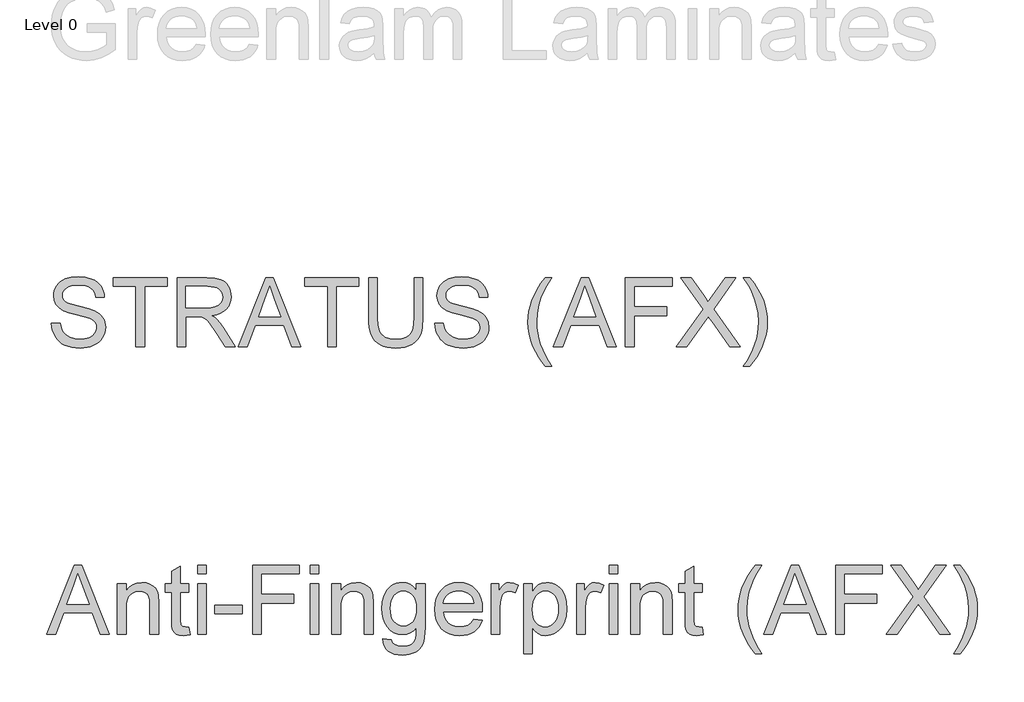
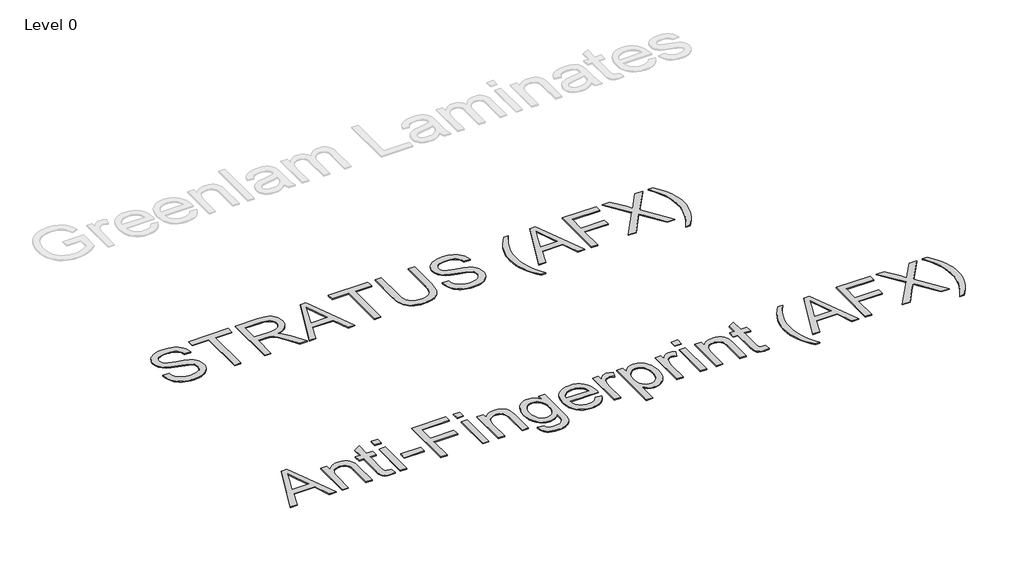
# One storey, part 2 of 3: 2 proxies.
"""IFC4 building model written with IfcOpenShell, lengths in millimetres."""

from ifc_helpers import new_model, si_unit, origin, origin_with_axes, place, context, project, spatial, polyline, outline, extrude, element, save

model = new_model("IFC4")

# Units and contexts
model_context = context("Model", 3, world=origin())
ifc_project = project(units=[si_unit("LENGTHUNIT", "METRE", prefix="MILLI")], contexts=[model_context])

# Site, building, storey
site = spatial("IfcSite", under=ifc_project)
building = spatial("IfcBuilding", under=site)
storey = spatial("IfcBuildingStorey", under=building, Name="Level 0", Elevation=0.0)

# Proxies
placement = place(None, origin())
element("IfcBuildingElementProxy", 1, Name="600mm Arial", ObjectType="600mm Arial", at=placement, inside=storey, context=model_context, shape_type="SweptSolid", body=[
    extrude(outline(polyline([(-10905.7165225, 467.3190924), (-10830.3742899, 467.3190924), (-10821.729063, 425.5093036), (-10806.0940782, 391.9032833), (-10781.7035019, 365.2318387), (-10746.7915006, 344.2257768), (-10704.1171891, 330.5957488), (-10656.4396825, 326.0524062), (-10614.4643469, 329.4921029), (-10577.7129356, 339.8111928), (-10547.9328881, 356.1451534), (-10526.8716438, 377.6294619), (-10514.3452619, 402.2959497), (-10510.1698013, 428.1764481), (-10513.2967982, 453.3947588), (-10522.6777891, 475.1917671), (-10541.7340764, 493.7882019), (-10573.8869628, 509.4047926), (-10683.5893738, 538.1731646), (-10755.6022743, 557.2110579), (-10801.6794942, 575.3292461), (-10839.1850636, 600.6763156), (-10865.7645378, 631.3944622), (-10881.6018577, 666.8214983), (-10886.8809643, 706.2952364), (-10885.248488, 728.7314396), (-10880.3510589, 750.4226817), (-10872.1886771, 771.3689628), (-10860.7613427, 791.5702829), (-10846.1978142, 810.203506), (-10828.6268504, 826.445496), (-10808.0484513, 840.2962532), (-10784.4626169, 851.7557773), (-10731.4508214, 867.1516388), (-10672.7736431, 872.2835926), (-10609.2036344, 866.9125155), (-10553.5798767, 850.7992841), (-10529.2444827, 838.797134), (-10507.8889329, 824.2749923), (-10489.5132272, 807.2328588), (-10474.1173657, 787.6707338), (-10461.82091, 766.1588341), (-10452.7434218, 743.2673769), (-10446.884901, 718.9963623), (-10444.2453477, 693.3457902), (-10519.5875803, 693.3457902), (-10524.6275637, 717.3868786), (-10533.4199434, 738.30097), (-10545.9647194, 756.0880645), (-10562.2618918, 770.748162), (-10582.6149632, 782.2076861), (-10607.3274362, 790.3930605), (-10636.3993109, 795.3042852), (-10669.8305872, 796.94136), (-10704.3287213, 795.3226793), (-10733.8052661, 790.4666369), (-10758.2602218, 782.373233), (-10777.6935881, 771.0424676), (-10792.5008385, 757.4216367), (-10803.0774458, 742.4580365), (-10809.4234102, 726.1516671), (-10811.5387317, 708.5025284), (-10810.0396126, 693.318199), (-10805.5422552, 679.5502154), (-10798.0466595, 667.1985774), (-10787.5528256, 656.2632851), (-10771.034924, 645.9074069), (-10745.025667, 635.4411642), (-10664.5330864, 614.1775848), (-10581.4653319, 593.9808633), (-10531.2126514, 576.3593157), (-10488.2624284, 549.0256835), (-10471.6571549, 532.9584373), (-10458.2984399, 515.2909045), (-10448.0299337, 496.1150555), (-10440.6952865, 475.5228608), (-10434.8275686, 430.0894344), (-10436.5152273, 406.5219941), (-10441.5782033, 383.6443326), (-10450.0164965, 361.4564497), (-10461.8301071, 339.9583456), (-10476.8121013, 319.9823533), (-10494.7555457, 302.3608057), (-10515.66044, 287.0937029), (-10539.5267845, 274.1810449), (-10565.6602017, 263.9125387), (-10593.3663145, 256.5778914), (-10653.4966266, 250.7101736), (-10692.0368641, 252.2920662), (-10727.3121489, 257.0377439), (-10759.322481, 264.9472068), (-10788.0678604, 276.0204549), (-10813.7230311, 290.2758822), (-10836.4627369, 307.7318828), (-10856.2869779, 328.3884569), (-10873.1957541, 352.2456043), (-10886.816585, 378.5307728), (-10896.77699, 406.4714104), (-10903.0769692, 436.0675169), (-10905.7165225, 467.3190924)])), origin_with_axes(), (0.0, 0.0, 1.0), 10.0),
    extrude(outline(polyline([(-10171.1297545, 260.1279527), (-10171.1297545, 787.523581), (-10368.9031151, 787.523581), (-10368.9031151, 862.8658136), (-9898.0141613, 862.8658136), (-9898.0141613, 787.523581), (-10095.7875219, 787.523581), (-10095.7875219, 260.1279527), (-10171.1297545, 260.1279527)])), origin_with_axes(), (0.0, 0.0, 1.0), 10.0),
    extrude(outline(polyline([(-9813.2541496, 260.1279527), (-9813.2541496, 862.8658136), (-9553.529461, 862.8658136), (-9483.7238524, 858.8007175), (-9432.937743, 846.6054294), (-9413.3388297, 836.9117388), (-9395.8184497, 824.0910513), (-9380.3766029, 808.1433668), (-9367.0132894, 789.0686853), (-9356.2297485, 767.892478), (-9348.5272192, 745.6402158), (-9343.9057016, 722.3118988), (-9342.3651958, 697.9075269), (-9344.9173771, 666.950257), (-9352.5739211, 638.5313729), (-9365.3348278, 612.6508745), (-9383.2000972, 589.308762), (-9406.3996556, 569.2499962), (-9435.1634291, 553.2195382), (-9469.4914177, 541.2173881), (-9509.3836216, 533.2435459), (-9484.5515869, 517.0199499), (-9466.5621573, 501.0170831), (-9435.6968579, 464.4128246), (-9405.4937461, 423.4675585), (-9304.9883851, 260.1279527), (-9392.5442999, 260.1279527), (-9470.9767413, 385.0606782), (-9527.6305685, 467.7605507), (-9548.6918128, 491.8752155), (-9567.4354004, 506.8296186), (-9603.2671067, 521.1770164), (-9646.9714878, 523.8257668), (-9737.911917, 523.8257668), (-9737.911917, 260.1279527), (-9813.2541496, 260.1279527)]), holes=[polyline([(-9737.911917, 599.1679994), (-9569.2748104, 599.1679994), (-9520.8431457, 601.8351439), (-9483.2639999, 609.8365773), (-9454.9738745, 623.7057285), (-9434.409271, 643.9760264), (-9421.882889, 668.4953614), (-9417.7074284, 695.1116238), (-9419.6985897, 714.3794433), (-9425.6720736, 731.8630351), (-9435.6278801, 747.5623992), (-9449.5660092, 761.4775357), (-9467.8083576, 772.8726805), (-9490.6768221, 781.0120696), (-9518.1714027, 785.8957031), (-9550.2920994, 787.523581), (-9737.911917, 787.523581), (-9737.911917, 599.1679994)])]), origin_with_axes(), (0.0, 0.0, 1.0), 10.0),
    extrude(outline(polyline([(-9280.7081734, 260.1279527), (-9040.1133485, 862.8658136), (-8975.9547286, 862.8658136), (-8735.3599037, 260.1279527), (-8814.9695675, 260.1279527), (-8883.9842298, 448.4835342), (-9132.2310001, 448.4835342), (-9201.0985096, 260.1279527), (-9280.7081734, 260.1279527)]), holes=[polyline([(-9104.5662741, 523.8257668), (-8911.501803, 523.8257668), (-8965.8011855, 672.0086345), (-9008.0340386, 787.523581), (-9045.5580021, 684.9580807), (-9104.5662741, 523.8257668)])]), origin_with_axes(), (0.0, 0.0, 1.0), 10.0),
    extrude(outline(polyline([(-8504.182858, 260.1279527), (-8504.182858, 787.523581), (-8701.9562186, 787.523581), (-8701.9562186, 862.8658136), (-8231.0672647, 862.8658136), (-8231.0672647, 787.523581), (-8428.8406253, 787.523581), (-8428.8406253, 260.1279527), (-8504.182858, 260.1279527)])), origin_with_axes(), (0.0, 0.0, 1.0), 10.0),
    extrude(outline(polyline([(-7750.7605318, 862.8658136), (-7675.4182992, 862.8658136), (-7675.4182992, 515.1437517), (-7680.531859, 433.7130721), (-7686.9238086, 400.0196799), (-7695.8725382, 371.007586), (-7708.1505997, 345.5777431), (-7724.5305456, 322.6311037), (-7745.0123757, 302.1676677), (-7769.59609, 284.1874352), (-7798.3092797, 269.5411332), (-7831.179536, 259.079489), (-7868.2068588, 252.8025024), (-7909.3912482, 250.7101736), (-7949.5593635, 252.5311895), (-7985.8923091, 257.9942371), (-8018.3900848, 267.0993165), (-8047.0526907, 279.8464276), (-8071.8847254, 296.047031), (-8092.8907873, 315.512587), (-8110.0708765, 338.2430958), (-8123.4249929, 364.2385573), (-8133.4359817, 394.3910853), (-8140.586688, 429.5927937), (-8144.8771118, 469.8436825), (-8146.307253, 515.1437517), (-8146.307253, 862.8658136), (-8070.9650204, 862.8658136), (-8070.9650204, 517.7925021), (-8067.2494123, 450.0838209), (-8056.1025878, 402.9397432), (-8047.3377993, 385.5619175), (-8035.9058663, 370.2902161), (-8021.8067888, 357.1246392), (-8005.0405669, 346.0651867), (-7964.7942766, 331.0556013), (-7916.4545825, 326.0524062), (-7874.9299023, 328.5264126), (-7839.8247629, 335.9484319), (-7811.1391643, 348.318464), (-7788.8731065, 365.6365089), (-7772.1988551, 389.990297), (-7760.2886755, 423.4675585), (-7753.1425678, 466.0682936), (-7750.7605318, 517.7925021), (-7750.7605318, 862.8658136)])), origin_with_axes(), (0.0, 0.0, 1.0), 10.0),
    extrude(outline(polyline([(-7571.8227294, 467.3190924), (-7496.4804968, 467.3190924), (-7487.8352699, 425.5093036), (-7472.2002851, 391.9032833), (-7447.8097088, 365.2318387), (-7412.8977075, 344.2257768), (-7370.223396, 330.5957488), (-7322.5458894, 326.0524062), (-7280.5705538, 329.4921029), (-7243.8191425, 339.8111928), (-7214.039095, 356.1451534), (-7192.9778507, 377.6294619), (-7180.4514688, 402.2959497), (-7176.2760082, 428.1764481), (-7179.4030051, 453.3947588), (-7188.783996, 475.1917671), (-7207.8402834, 493.7882019), (-7239.9931697, 509.4047926), (-7349.6955807, 538.1731646), (-7421.7084812, 557.2110579), (-7467.7857011, 575.3292461), (-7505.2912706, 600.6763156), (-7531.8707447, 631.3944622), (-7547.7080646, 666.8214983), (-7552.9871712, 706.2952364), (-7551.3546949, 728.7314396), (-7546.4572658, 750.4226817), (-7538.294884, 771.3689628), (-7526.8675496, 791.5702829), (-7512.3040211, 810.203506), (-7494.7330573, 826.445496), (-7474.1546582, 840.2962532), (-7450.5688238, 851.7557773), (-7397.5570283, 867.1516388), (-7338.87985, 872.2835926), (-7275.3098413, 866.9125155), (-7219.6860836, 850.7992841), (-7195.3506896, 838.797134), (-7173.9951398, 824.2749923), (-7155.6194341, 807.2328588), (-7140.2235726, 787.6707338), (-7127.927117, 766.1588341), (-7118.8496287, 743.2673769), (-7112.9911079, 718.9963623), (-7110.3515546, 693.3457902), (-7185.6937872, 693.3457902), (-7190.7337706, 717.3868786), (-7199.5261503, 738.30097), (-7212.0709263, 756.0880645), (-7228.3680987, 770.748162), (-7248.7211701, 782.2076861), (-7273.4336431, 790.3930605), (-7302.5055178, 795.3042852), (-7335.9367941, 796.94136), (-7370.4349282, 795.3226793), (-7399.911473, 790.4666369), (-7424.3664287, 782.373233), (-7443.7997951, 771.0424676), (-7458.6070454, 757.4216367), (-7469.1836527, 742.4580365), (-7475.5296171, 726.1516671), (-7477.6449386, 708.5025284), (-7476.1458195, 693.318199), (-7471.6484621, 679.5502154), (-7464.1528664, 667.1985774), (-7453.6590325, 656.2632851), (-7437.1411309, 645.9074069), (-7411.1318739, 635.4411642), (-7330.6392933, 614.1775848), (-7247.5715388, 593.9808633), (-7197.3188583, 576.3593157), (-7154.3686354, 549.0256835), (-7137.7633618, 532.9584373), (-7124.4046468, 515.2909045), (-7114.1361407, 496.1150555), (-7106.8014934, 475.5228608), (-7100.9337756, 430.0894344), (-7102.6214342, 406.5219941), (-7107.6844102, 383.6443326), (-7116.1227034, 361.4564497), (-7127.936314, 339.9583456), (-7142.9183083, 319.9823533), (-7160.8617526, 302.3608057), (-7181.7666469, 287.0937029), (-7205.6329914, 274.1810449), (-7231.7664086, 263.9125387), (-7259.4725214, 256.5778914), (-7319.6028335, 250.7101736), (-7358.143071, 252.2920662), (-7393.4183558, 257.0377439), (-7425.4286879, 264.9472068), (-7454.1740673, 276.0204549), (-7479.829238, 290.2758822), (-7502.5689438, 307.7318828), (-7522.3931848, 328.3884569), (-7539.301961, 352.2456043), (-7552.9227919, 378.5307728), (-7562.8831969, 406.4714104), (-7569.1831761, 436.0675169), (-7571.8227294, 467.3190924)])), origin_with_axes(), (0.0, 0.0, 1.0), 10.0),
    extrude(outline(polyline([(-6611.2092636, 90.6079293), (-6641.6239075, 129.9621057), (-6669.5921362, 172.5352496), (-6695.1139496, 218.327361), (-6718.1893478, 267.3384398), (-6737.3100145, 318.4188548), (-6750.9676335, 370.4189748), (-6759.162205, 423.3387998), (-6761.8937288, 477.1783298), (-6759.8519837, 524.4971515), (-6753.7267485, 570.8042976), (-6743.5180231, 616.0997683), (-6729.2258076, 660.3835634), (-6707.5023758, 711.1696729), (-6680.5918079, 761.8454177), (-6648.4941038, 812.4107979), (-6611.2092636, 862.8658136), (-6554.7025891, 862.8658136), (-6599.0323695, 791.2391891), (-6625.1887794, 743.5248943), (-6649.2482619, 686.8710671), (-6667.5687852, 627.862795), (-6681.8058184, 552.4837742), (-6686.5514962, 476.7368714), (-6684.491357, 428.438564), (-6678.3109395, 380.1494536), (-6668.0102436, 331.8695403), (-6653.5892694, 283.598824), (-6635.0480169, 235.3373047), (-6612.386486, 187.0849825), (-6585.6046767, 138.8418574), (-6554.7025891, 90.6079293), (-6611.2092636, 90.6079293)])), origin_with_axes(), (0.0, 0.0, 1.0), 10.0),
    extrude(outline(polyline([(-6540.1344621, 260.1279527), (-6299.5396373, 862.8658136), (-6235.3810173, 862.8658136), (-5994.7861925, 260.1279527), (-6074.3958562, 260.1279527), (-6143.4105185, 448.4835342), (-6391.6572889, 448.4835342), (-6460.5247984, 260.1279527), (-6540.1344621, 260.1279527)]), holes=[polyline([(-6363.9925628, 523.8257668), (-6170.9280917, 523.8257668), (-6225.2274742, 672.0086345), (-6267.4603273, 787.523581), (-6304.9842908, 684.9580807), (-6363.9925628, 523.8257668)])]), origin_with_axes(), (0.0, 0.0, 1.0), 10.0),
    extrude(outline(polyline([(-5914.2936119, 260.1279527), (-5914.2936119, 862.8658136), (-5509.3291116, 862.8658136), (-5509.3291116, 787.523581), (-5838.9513793, 787.523581), (-5838.9513793, 608.5857785), (-5556.418007, 608.5857785), (-5556.418007, 533.2435459), (-5838.9513793, 533.2435459), (-5838.9513793, 260.1279527), (-5914.2936119, 260.1279527)])), origin_with_axes(), (0.0, 0.0, 1.0), 10.0),
    extrude(outline(polyline([(-5471.6579953, 260.1279527), (-5239.3037272, 588.572998), (-5433.986879, 862.8658136), (-5343.635061, 862.8658136), (-5234.0062264, 708.5025284), (-5207.8498166, 669.3966723), (-5197.0708741, 648.317034), (-5153.8079515, 709.532598), (-5045.3563393, 862.8658136), (-4953.6801461, 862.8658136), (-5148.363298, 587.6900812), (-4916.0090298, 260.1279527), (-5006.3608478, 260.1279527), (-5161.1655914, 478.502705), (-5193.3920542, 523.8257668), (-5228.8558785, 474.0881211), (-5379.9818021, 260.1279527), (-5471.6579953, 260.1279527)])), origin_with_axes(), (0.0, 0.0, 1.0), 10.0),
    extrude(outline(polyline([(-4831.2490181, 90.6079293), (-4887.7556926, 90.6079293), (-4856.853605, 138.8418574), (-4830.0717957, 187.0849825), (-4807.4102648, 235.3373047), (-4788.8690123, 283.598824), (-4774.4480381, 331.8695403), (-4764.1473422, 380.1494536), (-4757.9669247, 428.438564), (-4755.9067855, 476.7368714), (-4760.6524632, 551.9319512), (-4774.8894965, 626.5384199), (-4792.878926, 685.6570565), (-4816.8280439, 742.3476719), (-4843.0948184, 790.5770015), (-4887.7556926, 862.8658136), (-4831.2490181, 862.8658136), (-4793.9641779, 812.4107979), (-4761.8664738, 761.8454177), (-4734.9559059, 711.1696729), (-4713.2324741, 660.3835634), (-4698.9402585, 616.0997683), (-4688.7315332, 570.8042976), (-4682.606298, 524.4971515), (-4680.5645529, 477.1783298), (-4683.3098723, 423.3387998), (-4691.5458304, 370.4189748), (-4705.2724274, 318.4188548), (-4724.4896631, 267.3384398), (-4747.6340391, 218.327361), (-4773.142057, 172.5352496), (-4801.0137166, 129.9621057), (-4831.2490181, 90.6079293)])), origin_with_axes(), (0.0, 0.0, 1.0), 10.0),
])
element("IfcBuildingElementProxy", 2, Name="600mm Arial", ObjectType="600mm Arial", at=placement, inside=storey, context=model_context, shape_type="SweptSolid", body=[
    extrude(outline(polyline([(-10947.6550699, -2239.8720473), (-10707.0602451, -1637.1341864), (-10642.9016251, -1637.1341864), (-10402.3068003, -2239.8720473), (-10481.916464, -2239.8720473), (-10550.9311263, -2051.5164658), (-10799.1778967, -2051.5164658), (-10868.0454062, -2239.8720473), (-10947.6550699, -2239.8720473)]), holes=[polyline([(-10771.5131706, -1976.1742332), (-10578.4486996, -1976.1742332), (-10632.748082, -1827.9913655), (-10674.9809351, -1712.476419), (-10712.5048986, -1815.0419193), (-10771.5131706, -1976.1742332)])]), origin_with_axes(), (0.0, 0.0, 1.0), 10.0),
    extrude(outline(polyline([(-10331.2319988, -2239.8720473), (-10331.2319988, -1797.2364307), (-10255.8897662, -1797.2364307), (-10255.8897662, -1859.0406059), (-10229.7149622, -1827.8810009), (-10198.2794457, -1805.6241402), (-10161.5832167, -1792.2700238), (-10119.6262752, -1787.8186517), (-10082.4885878, -1791.4055011), (-10048.4778973, -1802.1660495), (-10020.1141955, -1818.7575275), (-9999.9174739, -1839.8371658), (-9986.2138696, -1865.3497821), (-9977.3295194, -1895.2401942), (-9973.3563939, -1968.0808293), (-9973.3563939, -2239.8720473), (-10048.6986265, -2239.8720473), (-10048.6986265, -1978.2343724), (-10050.8691303, -1939.2756691), (-10057.3806416, -1911.5741548), (-10069.3919887, -1891.7269212), (-10088.062, -1876.3310597), (-10111.9927238, -1866.4534281), (-10139.7862085, -1863.1608843), (-10162.6638701, -1865.0094913), (-10183.9136538, -1870.5553124), (-10203.5355598, -1879.7983475), (-10221.5295878, -1892.7385967), (-10236.5621659, -1910.8475879), (-10247.2997216, -1935.5968491), (-10253.742255, -1966.9863804), (-10255.8897662, -2005.0161816), (-10255.8897662, -2239.8720473), (-10331.2319988, -2239.8720473)])), origin_with_axes(), (0.0, 0.0, 1.0), 10.0),
    extrude(outline(polyline([(-9709.6585798, -2177.0378026), (-9700.2408007, -2242.0793393), (-9756.6003223, -2249.2898264), (-9792.7631225, -2246.1628294), (-9819.7288727, -2236.7818386), (-9838.7851601, -2222.3240762), (-9851.2195715, -2203.9667646), (-9858.0621766, -2172.4392776), (-9860.343045, -2118.4709889), (-9860.343045, -1872.5786633), (-9916.8497194, -1872.5786633), (-9916.8497194, -1797.2364307), (-9860.343045, -1797.2364307), (-9860.343045, -1689.6677353), (-9785.0008124, -1645.3747431), (-9785.0008124, -1797.2364307), (-9709.6585798, -1797.2364307), (-9709.6585798, -1872.5786633), (-9785.0008124, -1872.5786633), (-9785.0008124, -2116.2636969), (-9781.0276868, -2155.1120356), (-9768.151817, -2168.8708223), (-9757.280904, -2172.6784009), (-9742.4736537, -2173.9475938), (-9709.6585798, -2177.0378026)])), origin_with_axes(), (0.0, 0.0, 1.0), 10.0),
    extrude(outline(polyline([(-9634.3163471, -1712.476419), (-9634.3163471, -1637.1341864), (-9558.9741145, -1637.1341864), (-9558.9741145, -1712.476419), (-9634.3163471, -1712.476419)])), origin_with_axes(), (0.0, 0.0, 1.0), 10.0),
    extrude(outline(polyline([(-9634.3163471, -2239.8720473), (-9634.3163471, -1797.2364307), (-9558.9741145, -1797.2364307), (-9558.9741145, -2239.8720473), (-9634.3163471, -2239.8720473)])), origin_with_axes(), (0.0, 0.0, 1.0), 10.0),
    extrude(outline(polyline([(-9483.6318819, -2060.9342449), (-9483.6318819, -1985.5920123), (-9248.187405, -1985.5920123), (-9248.187405, -2060.9342449), (-9483.6318819, -2060.9342449)])), origin_with_axes(), (0.0, 0.0, 1.0), 10.0),
    extrude(outline(polyline([(-9154.0096142, -2239.8720473), (-9154.0096142, -1637.1341864), (-8749.0451139, -1637.1341864), (-8749.0451139, -1712.476419), (-9078.6673816, -1712.476419), (-9078.6673816, -1891.4142215), (-8796.1340093, -1891.4142215), (-8796.1340093, -1966.7564541), (-9078.6673816, -1966.7564541), (-9078.6673816, -2239.8720473), (-9154.0096142, -2239.8720473)])), origin_with_axes(), (0.0, 0.0, 1.0), 10.0),
    extrude(outline(polyline([(-8654.8673232, -1712.476419), (-8654.8673232, -1637.1341864), (-8579.5250906, -1637.1341864), (-8579.5250906, -1712.476419), (-8654.8673232, -1712.476419)])), origin_with_axes(), (0.0, 0.0, 1.0), 10.0),
    extrude(outline(polyline([(-8654.8673232, -2239.8720473), (-8654.8673232, -1797.2364307), (-8579.5250906, -1797.2364307), (-8579.5250906, -2239.8720473), (-8654.8673232, -2239.8720473)])), origin_with_axes(), (0.0, 0.0, 1.0), 10.0),
    extrude(outline(polyline([(-8466.5117417, -2239.8720473), (-8466.5117417, -1797.2364307), (-8391.169509, -1797.2364307), (-8391.169509, -1859.0406059), (-8364.9947051, -1827.8810009), (-8333.5591886, -1805.6241402), (-8296.8629596, -1792.2700238), (-8254.906018, -1787.8186517), (-8217.7683306, -1791.4055011), (-8183.7576402, -1802.1660495), (-8155.3939383, -1818.7575275), (-8135.1972168, -1839.8371658), (-8121.4936125, -1865.3497821), (-8112.6092623, -1895.2401942), (-8108.6361367, -1968.0808293), (-8108.6361367, -2239.8720473), (-8183.9783694, -2239.8720473), (-8183.9783694, -1978.2343724), (-8186.1488731, -1939.2756691), (-8192.6603844, -1911.5741548), (-8204.6717316, -1891.7269212), (-8223.3417428, -1876.3310597), (-8247.2724666, -1866.4534281), (-8275.0659514, -1863.1608843), (-8297.9436129, -1865.0094913), (-8319.1933967, -1870.5553124), (-8338.8153026, -1879.7983475), (-8356.8093307, -1892.7385967), (-8371.8419087, -1910.8475879), (-8382.5794645, -1935.5968491), (-8389.0219979, -1966.9863804), (-8391.169509, -2005.0161816), (-8391.169509, -2239.8720473), (-8466.5117417, -2239.8720473)])), origin_with_axes(), (0.0, 0.0, 1.0), 10.0),
    extrude(outline(polyline([(-8023.8761251, -2277.5431636), (-7948.5338924, -2286.9609427), (-7940.2197594, -2310.5053904), (-7924.106528, -2326.6921982), (-7892.4318882, -2339.2737624), (-7850.9715873, -2343.4676172), (-7806.7521715, -2338.7219394), (-7788.8915006, -2332.7898423), (-7773.8635211, -2324.4849062), (-7751.0548374, -2301.6762225), (-7737.0753216, -2271.2155933), (-7732.9918315, -2238.8051895), (-7731.9249737, -2183.3653729), (-7756.9961317, -2208.0870429), (-7784.9735574, -2225.7453787), (-7815.8572509, -2236.3403802), (-7849.6472121, -2239.8720473), (-7890.9557617, -2235.760966), (-7927.3254954, -2223.4277221), (-7958.7564134, -2202.8723157), (-7985.2485156, -2174.0947466), (-8006.2683731, -2139.5690213), (-8021.282557, -2101.7691463), (-8030.2910673, -2060.6951216), (-8033.2939041, -2016.3469471), (-8027.9044329, -1955.5176592), (-8011.7360192, -1899.5812018), (-7999.7522632, -1874.3582925), (-7985.3588802, -1852.1796067), (-7968.55587, -1833.0451444), (-7949.3432328, -1816.9549057), (-7928.0290697, -1804.2077945), (-7904.9214819, -1795.1027152), (-7880.0204694, -1789.6396675), (-7853.3260321, -1787.8186517), (-7818.092134, -1791.93893), (-7786.1139916, -1804.299765), (-7757.3916048, -1824.9011568), (-7731.9249737, -1853.7431052), (-7731.9249737, -1797.2364307), (-7656.5827411, -1797.2364307), (-7656.5827411, -2179.3922473), (-7661.733089, -2267.6287439), (-7668.1710239, -2300.4484164), (-7677.1841328, -2325.735705), (-7688.9885463, -2346.1301631), (-7703.8003952, -2364.271344), (-7721.6196793, -2380.1592477), (-7742.4463987, -2393.7938741), (-7766.0690214, -2404.7383635), (-7792.276015, -2412.5558559), (-7821.0673796, -2417.2463513), (-7852.4431153, -2418.8098498), (-7889.355475, -2416.6071563), (-7922.5430295, -2409.999076), (-7952.0057788, -2398.9856088), (-7977.7437229, -2383.5667546), (-7998.5336541, -2363.7241195), (-8013.1523649, -2339.4393093), (-8021.5998552, -2310.712324), (-8023.8761251, -2277.5431636)]), holes=[polyline([(-7957.9516715, -2011.1965991), (-7955.9421161, -2048.4492497), (-7949.9134499, -2080.3032319), (-7939.8656729, -2106.7585459), (-7925.7987851, -2127.8151916), (-7908.6968709, -2143.8778392), (-7889.5440145, -2155.3511589), (-7868.340216, -2162.2351508), (-7845.0854754, -2164.5298147), (-7822.060661, -2162.2489463), (-7800.9580301, -2155.4063412), (-7781.7775826, -2144.0019994), (-7764.5193185, -2128.0359208), (-7750.2592926, -2107.1862087), (-7740.0735599, -2081.1309664), (-7733.9621202, -2049.8701939), (-7731.9249737, -2013.4038911), (-7734.0219011, -1978.4597001), (-7740.3126832, -1948.0864429), (-7750.79732, -1922.2841194), (-7765.4758116, -1901.0527298), (-7783.1065563, -1884.4750474), (-7802.4479522, -1872.6338456), (-7823.4999993, -1865.5291246), (-7846.2626978, -1863.1608843), (-7868.6437187, -1865.4923364), (-7889.2864971, -1872.4866928), (-7908.1910331, -1884.1439536), (-7925.3573267, -1900.4641186), (-7939.6173526, -1921.3736115), (-7949.8030853, -1946.7988559), (-7955.914525, -1976.7398518), (-7957.9516715, -2011.1965991)])]), origin_with_axes(), (0.0, 0.0, 1.0), 10.0),
    extrude(outline(polyline([(-7233.6655994, -2108.0231403), (-7159.7948948, -2117.4409193), (-7171.1210617, -2147.0278288), (-7186.4111571, -2173.1014652), (-7205.6651811, -2195.6618286), (-7228.8831335, -2214.7089189), (-7255.8258911, -2229.8380659), (-7286.2543306, -2240.6445995), (-7320.1684521, -2247.1285197), (-7357.5682554, -2249.2898264), (-7404.3168599, -2245.5604227), (-7445.9702988, -2234.3722115), (-7482.5285721, -2215.7251929), (-7513.9916797, -2189.6193668), (-7539.292764, -2156.7813002), (-7557.364967, -2117.93756), (-7568.2082888, -2073.0881463), (-7571.8227294, -2022.233059), (-7568.1715006, -1969.6535248), (-7557.2178142, -1923.3095905), (-7538.9616702, -1883.201256), (-7513.4030685, -1849.3285212), (-7482.0227344, -1822.4179533), (-7446.3013926, -1803.1961191), (-7406.2390434, -1791.6630185), (-7361.8356865, -1787.8186517), (-7318.862471, -1791.6538215), (-7280.0003367, -1803.1593309), (-7245.2492837, -1822.3351799), (-7214.6093121, -1849.1813685), (-7189.5979349, -1882.9805268), (-7171.7326655, -1923.0152849), (-7161.0135039, -1969.2856428), (-7157.44045, -2021.7916006), (-7157.8819084, -2042.0986867), (-7496.4804968, -2042.0986867), (-7492.1164966, -2072.1638428), (-7483.43908, -2098.4949966), (-7470.4482471, -2121.0921481), (-7453.1439977, -2139.9552974), (-7432.4828252, -2154.8269271), (-7409.4212226, -2165.4495197), (-7383.95919, -2171.8230753), (-7356.0967274, -2173.9475938), (-7315.9975899, -2170.0112564), (-7282.2260228, -2158.2022444), (-7254.7820259, -2137.7847937), (-7233.6655994, -2108.0231403)]), holes=[polyline([(-7496.4804968, -1966.7564541), (-7232.7826826, -1966.7564541), (-7242.9730139, -1926.9516222), (-7251.7378024, -1911.2982433), (-7262.9490062, -1898.4775558), (-7283.4952157, -1883.026512), (-7306.8741165, -1871.9900522), (-7333.0857086, -1865.3681762), (-7362.1299921, -1863.1608843), (-7388.6220943, -1864.9221193), (-7412.9161016, -1870.2058245), (-7435.0120139, -1879.0119997), (-7454.9098313, -1891.3406451), (-7471.6070754, -1906.6215435), (-7484.1012676, -1924.2844778), (-7492.3924081, -1944.329448), (-7496.4804968, -1966.7564541)])]), origin_with_axes(), (0.0, 0.0, 1.0), 10.0),
    extrude(outline(polyline([(-7082.0982174, -2239.8720473), (-7082.0982174, -1797.2364307), (-7016.1737639, -1797.2364307), (-7016.1737639, -1862.7194259), (-6991.8199758, -1824.754004), (-6969.3791741, -1802.3867787), (-6946.864796, -1791.4606834), (-6922.2902787, -1787.8186517), (-6884.7663152, -1793.6311872), (-6846.6537405, -1811.0687938), (-6871.816869, -1878.6119281), (-6898.3043726, -1867.0236452), (-6924.7918763, -1863.1608843), (-6947.2878603, -1866.8764924), (-6967.3926113, -1878.0233169), (-6983.6346014, -1895.755229), (-6994.5423025, -1919.2261003), (-7003.7025642, -1961.3118006), (-7006.7559848, -2007.2234736), (-7006.7559848, -2239.8720473), (-7082.0982174, -2239.8720473)])), origin_with_axes(), (0.0, 0.0, 1.0), 10.0),
    extrude(outline(polyline([(-6799.5648451, -2409.3920707), (-6799.5648451, -1797.2364307), (-6724.2226125, -1797.2364307), (-6724.2226125, -1871.1071354), (-6699.6480952, -1834.6684237), (-6672.130522, -1808.6407726), (-6640.051212, -1793.0241819), (-6601.7914845, -1787.8186517), (-6575.515513, -1789.6396675), (-6550.8398282, -1795.1027152), (-6527.76443, -1804.2077945), (-6506.2893186, -1816.9549057), (-6486.8835433, -1833.0129548), (-6470.0161538, -1852.050848), (-6455.6871501, -1874.0685854), (-6443.8965322, -1899.066167), (-6428.1143946, -1954.5795601), (-6422.853682, -2015.1697247), (-6428.7949763, -2079.6042561), (-6436.221594, -2109.2693405), (-6446.6188589, -2137.2329707), (-6459.8442167, -2162.7639811), (-6475.755113, -2185.1312064), (-6494.3515478, -2204.3346466), (-6515.6335212, -2220.3743016), (-6538.5571681, -2233.0248437), (-6562.0786231, -2242.0609452), (-6586.1978864, -2247.4826061), (-6610.914958, -2249.2898264), (-6645.5510478, -2244.4521782), (-6676.4715295, -2229.9392335), (-6702.9406391, -2208.0318606), (-6724.2226125, -2181.0109281), (-6724.2226125, -2409.3920707), (-6799.5648451, -2409.3920707)]), holes=[polyline([(-6724.2226125, -2022.0859062), (-6722.1854659, -2058.3958591), (-6716.0740263, -2089.6290405), (-6705.8882936, -2115.7854504), (-6691.6282677, -2136.8650887), (-6674.4619741, -2153.0886847), (-6655.5574381, -2164.6769675), (-6634.9146596, -2171.6299372), (-6612.5336388, -2173.9475938), (-6589.8307211, -2171.5471638), (-6568.8108636, -2164.3458737), (-6549.4740663, -2152.3437236), (-6531.820329, -2135.5407135), (-6517.1096477, -2113.69772), (-6506.6020182, -2086.5756199), (-6500.2974406, -2054.1744132), (-6498.1959147, -2016.4940999), (-6500.2468568, -1980.4968466), (-6506.3996831, -1949.3188475), (-6516.6543938, -1922.9601026), (-6531.0109886, -1901.4206118), (-6548.218669, -1884.681981), (-6567.026636, -1872.7258161), (-6587.4348896, -1865.5521172), (-6609.44343, -1863.1608843), (-6631.3829925, -1865.7038686), (-6652.0257709, -1873.3328214), (-6671.3717654, -1886.0477429), (-6689.4209757, -1903.8486329), (-6704.6466918, -1926.4963683), (-6715.5222033, -1953.7518256), (-6722.0475102, -1985.6150049), (-6724.2226125, -2022.0859062)])]), origin_with_axes(), (0.0, 0.0, 1.0), 10.0),
    extrude(outline(polyline([(-6338.0936704, -2239.8720473), (-6338.0936704, -1797.2364307), (-6272.1692168, -1797.2364307), (-6272.1692168, -1862.7194259), (-6247.8154287, -1824.754004), (-6225.374627, -1802.3867787), (-6202.8602489, -1791.4606834), (-6178.2857317, -1787.8186517), (-6140.7617681, -1793.6311872), (-6102.6491934, -1811.0687938), (-6127.8123219, -1878.6119281), (-6154.2998256, -1867.0236452), (-6180.7873292, -1863.1608843), (-6203.2833132, -1866.8764924), (-6223.3880643, -1878.0233169), (-6239.6300543, -1895.755229), (-6250.5377555, -1919.2261003), (-6259.6980172, -1961.3118006), (-6262.7514377, -2007.2234736), (-6262.7514377, -2239.8720473), (-6338.0936704, -2239.8720473)])), origin_with_axes(), (0.0, 0.0, 1.0), 10.0),
    extrude(outline(polyline([(-6055.5602981, -1712.476419), (-6055.5602981, -1637.1341864), (-5980.2180654, -1637.1341864), (-5980.2180654, -1712.476419), (-6055.5602981, -1712.476419)])), origin_with_axes(), (0.0, 0.0, 1.0), 10.0),
    extrude(outline(polyline([(-6055.5602981, -2239.8720473), (-6055.5602981, -1797.2364307), (-5980.2180654, -1797.2364307), (-5980.2180654, -2239.8720473), (-6055.5602981, -2239.8720473)])), origin_with_axes(), (0.0, 0.0, 1.0), 10.0),
    extrude(outline(polyline([(-5867.2047165, -2239.8720473), (-5867.2047165, -1797.2364307), (-5791.8624839, -1797.2364307), (-5791.8624839, -1859.0406059), (-5765.68768, -1827.8810009), (-5734.2521635, -1805.6241402), (-5697.5559345, -1792.2700238), (-5655.5989929, -1787.8186517), (-5618.4613055, -1791.4055011), (-5584.450615, -1802.1660495), (-5556.0869132, -1818.7575275), (-5535.8901917, -1839.8371658), (-5522.1865874, -1865.3497821), (-5513.3022372, -1895.2401942), (-5509.3291116, -1968.0808293), (-5509.3291116, -2239.8720473), (-5584.6713442, -2239.8720473), (-5584.6713442, -1978.2343724), (-5586.841848, -1939.2756691), (-5593.3533593, -1911.5741548), (-5605.3647065, -1891.7269212), (-5624.0347177, -1876.3310597), (-5647.9654415, -1866.4534281), (-5675.7589262, -1863.1608843), (-5698.6365878, -1865.0094913), (-5719.8863716, -1870.5553124), (-5739.5082775, -1879.7983475), (-5757.5023056, -1892.7385967), (-5772.5348836, -1910.8475879), (-5783.2724393, -1935.5968491), (-5789.7149728, -1966.9863804), (-5791.8624839, -2005.0161816), (-5791.8624839, -2239.8720473), (-5867.2047165, -2239.8720473)])), origin_with_axes(), (0.0, 0.0, 1.0), 10.0),
    extrude(outline(polyline([(-5245.6312975, -2177.0378026), (-5236.2135184, -2242.0793393), (-5292.5730401, -2249.2898264), (-5328.7358402, -2246.1628294), (-5355.7015904, -2236.7818386), (-5374.7578778, -2222.3240762), (-5387.1922892, -2203.9667646), (-5394.0348943, -2172.4392776), (-5396.3157627, -2118.4709889), (-5396.3157627, -1872.5786633), (-5452.8224372, -1872.5786633), (-5452.8224372, -1797.2364307), (-5396.3157627, -1797.2364307), (-5396.3157627, -1689.6677353), (-5320.9735301, -1645.3747431), (-5320.9735301, -1797.2364307), (-5245.6312975, -1797.2364307), (-5245.6312975, -1872.5786633), (-5320.9735301, -1872.5786633), (-5320.9735301, -2116.2636969), (-5317.0004045, -2155.1120356), (-5304.1245347, -2168.8708223), (-5293.2536218, -2172.6784009), (-5278.4463714, -2173.9475938), (-5245.6312975, -2177.0378026)])), origin_with_axes(), (0.0, 0.0, 1.0), 10.0),
    extrude(outline(polyline([(-4784.1601227, -2409.3920707), (-4814.5747667, -2370.0378943), (-4842.5429954, -2327.4647504), (-4868.0648088, -2281.672639), (-4891.1402069, -2232.6615602), (-4910.2608736, -2181.5811452), (-4923.9184927, -2129.5810252), (-4932.1130641, -2076.6612002), (-4934.844588, -2022.8216702), (-4932.8028429, -1975.5028485), (-4926.6776077, -1929.1957024), (-4916.4688823, -1883.9002317), (-4902.1766668, -1839.6164366), (-4880.453235, -1788.8303271), (-4853.542667, -1738.1545823), (-4821.4449629, -1687.5892021), (-4784.1601227, -1637.1341864), (-4727.6534483, -1637.1341864), (-4771.9832287, -1708.7608109), (-4798.1396385, -1756.4751057), (-4822.199121, -1813.1289329), (-4840.5196444, -1872.137205), (-4854.7566776, -1947.5162258), (-4859.5023553, -2023.2631286), (-4857.4422162, -2071.561436), (-4851.2617986, -2119.8505464), (-4840.9611028, -2168.1304597), (-4826.5401286, -2216.401176), (-4807.998876, -2264.6626953), (-4785.3373451, -2312.9150175), (-4758.5555359, -2361.1581426), (-4727.6534483, -2409.3920707), (-4784.1601227, -2409.3920707)])), origin_with_axes(), (0.0, 0.0, 1.0), 10.0),
    extrude(outline(polyline([(-4713.0853213, -2239.8720473), (-4472.4904964, -1637.1341864), (-4408.3318765, -1637.1341864), (-4167.7370516, -2239.8720473), (-4247.3467154, -2239.8720473), (-4316.3613777, -2051.5164658), (-4564.608148, -2051.5164658), (-4633.4756575, -2239.8720473), (-4713.0853213, -2239.8720473)]), holes=[polyline([(-4536.943422, -1976.1742332), (-4343.8789509, -1976.1742332), (-4398.1783334, -1827.9913655), (-4440.4111864, -1712.476419), (-4477.9351499, -1815.0419193), (-4536.943422, -1976.1742332)])]), origin_with_axes(), (0.0, 0.0, 1.0), 10.0),
    extrude(outline(polyline([(-4087.2444711, -2239.8720473), (-4087.2444711, -1637.1341864), (-3682.2799708, -1637.1341864), (-3682.2799708, -1712.476419), (-4011.9022385, -1712.476419), (-4011.9022385, -1891.4142215), (-3729.3688662, -1891.4142215), (-3729.3688662, -1966.7564541), (-4011.9022385, -1966.7564541), (-4011.9022385, -2239.8720473), (-4087.2444711, -2239.8720473)])), origin_with_axes(), (0.0, 0.0, 1.0), 10.0),
    extrude(outline(polyline([(-3644.6088545, -2239.8720473), (-3412.2545863, -1911.427002), (-3606.9377382, -1637.1341864), (-3516.5859201, -1637.1341864), (-3406.9570856, -1791.4974716), (-3380.8006757, -1830.6033277), (-3370.0217333, -1851.682966), (-3326.7588106, -1790.467402), (-3218.3071985, -1637.1341864), (-3126.6310053, -1637.1341864), (-3321.3141571, -1912.3099188), (-3088.959889, -2239.8720473), (-3179.311707, -2239.8720473), (-3334.1164505, -2021.497295), (-3366.3429133, -1976.1742332), (-3401.8067377, -2025.9118789), (-3552.9326613, -2239.8720473), (-3644.6088545, -2239.8720473)])), origin_with_axes(), (0.0, 0.0, 1.0), 10.0),
    extrude(outline(polyline([(-3004.1998773, -2409.3920707), (-3060.7065517, -2409.3920707), (-3029.8044641, -2361.1581426), (-3003.0226549, -2312.9150175), (-2980.361124, -2264.6626953), (-2961.8198714, -2216.401176), (-2947.3988972, -2168.1304597), (-2937.0982013, -2119.8505464), (-2930.9177838, -2071.561436), (-2928.8576447, -2023.2631286), (-2933.6033224, -1948.0680488), (-2947.8403556, -1873.4615801), (-2965.8297852, -1814.3429435), (-2989.7789031, -1757.6523281), (-3016.0456775, -1709.4229985), (-3060.7065517, -1637.1341864), (-3004.1998773, -1637.1341864), (-2966.9150371, -1687.5892021), (-2934.817333, -1738.1545823), (-2907.906765, -1788.8303271), (-2886.1833332, -1839.6164366), (-2871.8911177, -1883.9002317), (-2861.6823923, -1929.1957024), (-2855.5571571, -1975.5028485), (-2853.515412, -2022.8216702), (-2856.2607314, -2076.6612002), (-2864.4966896, -2129.5810252), (-2878.2232865, -2181.5811452), (-2897.4405223, -2232.6615602), (-2920.5848983, -2281.672639), (-2946.0929161, -2327.4647504), (-2973.9645758, -2370.0378943), (-3004.1998773, -2409.3920707)])), origin_with_axes(), (0.0, 0.0, 1.0), 10.0),
])

save(model, "model.ifc")
